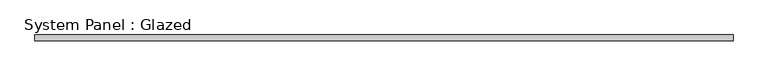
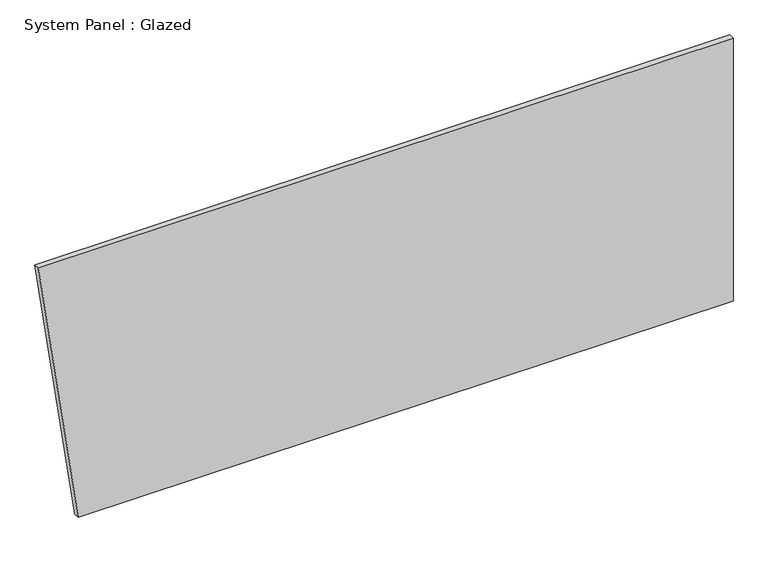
"""IFC4 building model written with IfcOpenShell, lengths in millimetres: plate geometry, System Panel : Glazed."""

from ifc_helpers import new_model, si_unit, frame, origin, place, context, project, spatial, polyline, outline, extrude, source, transform, mapped, element, save


def system_panel_glazed_e3593e87(model_context):
    return source(origin(), model_context, "Body", "SweptSolid", [
        extrude(outline(polyline([(0.0, -1348.5755397), (0.0, 1524.0000002), (1219.2, 1524.0000002), (1219.2, -1524.0000002), (0.0, -1348.5755397)])), frame((0.0, 19.05, 0.0), z_axis=(0.0, 1.0, 0.0), x_axis=(0.0, 0.0, 1.0)), (0.0, 0.0, 1.0), 25.4),
    ])


if __name__ == "__main__":
    model = new_model("IFC4")
    model_context = context("Model", 3, world=origin())
    ifc_project = project(units=[si_unit("LENGTHUNIT", "METRE", prefix="MILLI")], contexts=[model_context])
    site = spatial("IfcSite", under=ifc_project)
    building = spatial("IfcBuilding", under=site)
    placement = place(None, origin())
    system_panel_glazed_shape = system_panel_glazed_e3593e87(model_context)
    element("IfcPlate", 1, ObjectType="System Panel : Glazed", at=placement, inside=building, context=model_context, shape_type="MappedRepresentation", body=[
        mapped(system_panel_glazed_shape, transform((0.0, 0.0, 0.0), x_axis=(1.0, 0.0, 0.0), y_axis=(0.0, 1.0, 0.0), z_axis=(0.0, 0.0, 1.0))),
    ])
    save(model, "model.ifc")
